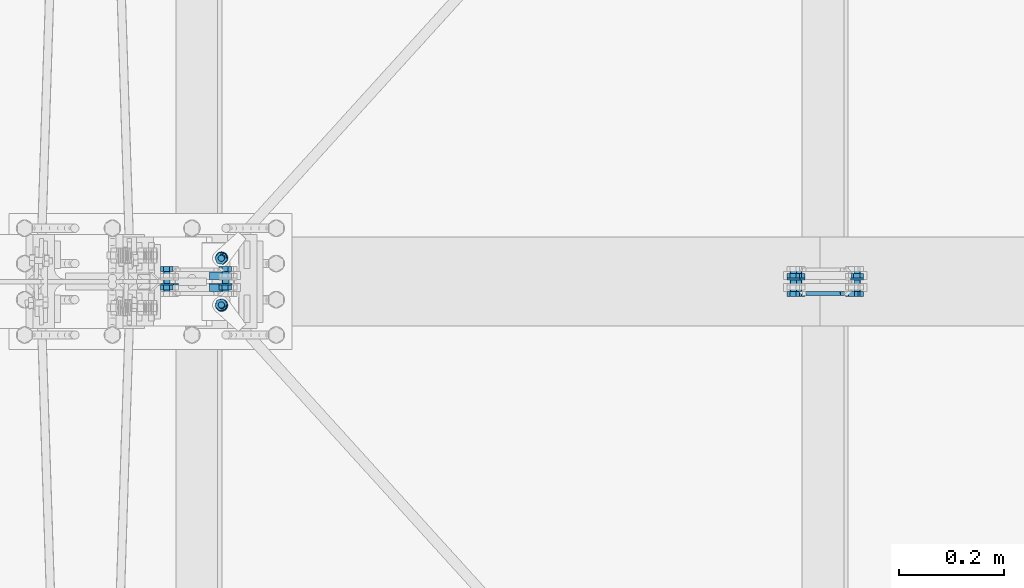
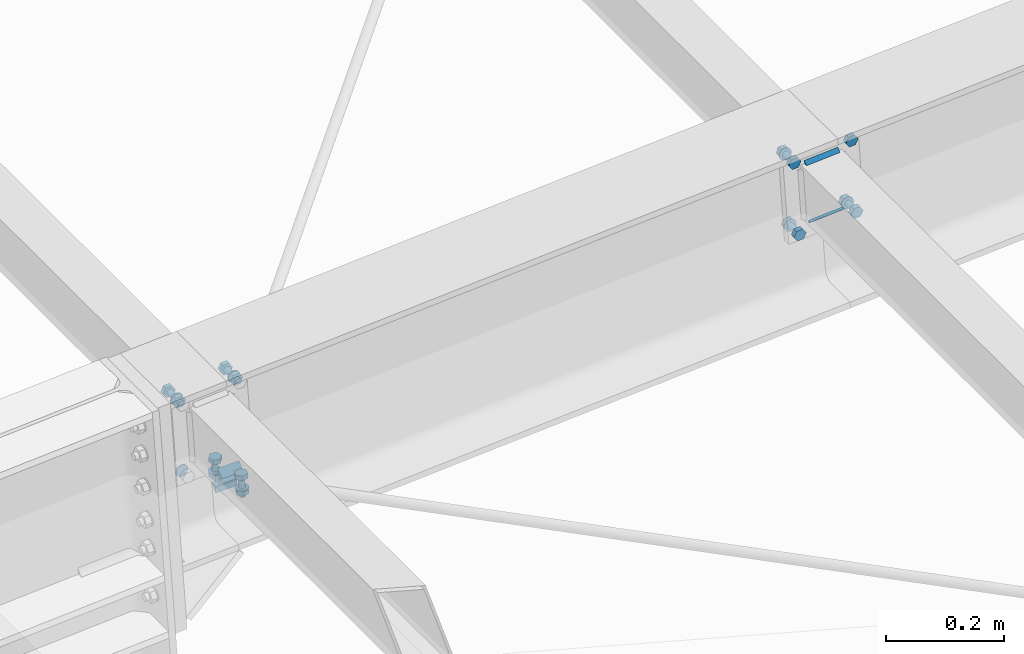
# One storey, part 48 of 72: 30 mechanical fasteners, 8 fasteners.
"""IFC4 building model written with IfcOpenShell, lengths in metres."""

from ifc_helpers import new_model, si_unit, frame, origin_with_axes, place, context, project, spatial, polyline, outline, extrude, type_object, element, save


model = new_model("IFC4")

# Units and contexts
model_context = context("Model", 3, precision=1e-05, world=origin_with_axes())
ifc_project = project(units=[si_unit("LENGTHUNIT", "METRE"), si_unit("AREAUNIT", "SQUARE_METRE"), si_unit("VOLUMEUNIT", "CUBIC_METRE"), si_unit("MASSUNIT", "GRAM", prefix="KILO"), si_unit("TIMEUNIT", "SECOND"), si_unit("PLANEANGLEUNIT", "RADIAN"), si_unit("SOLIDANGLEUNIT", "STERADIAN"), si_unit("THERMODYNAMICTEMPERATUREUNIT", "DEGREE_CELSIUS")], contexts=[model_context])

# Site, building, storey
placement_1 = place(None, origin_with_axes())
site = spatial("IfcSite", under=ifc_project, at=placement_1, Name="Italia", CompositionType="ELEMENT")
building = spatial("IfcBuilding", under=site, at=placement_1, Name="Pensilina", CompositionType="ELEMENT")
storey = spatial("IfcBuildingStorey", under=building, at=placement_1, Name="Storey 0", CompositionType="ELEMENT", Elevation=0.0)

# Mechanical fasteners
mechanical_fastener_type_1 = type_object("IfcMechanicalFastenerType", Name="Collegamento 0203_0204", PredefinedType="BOLT")
placement_2 = place(placement_1, origin_with_axes())
mechanical_fastener_1_placement = place(placement_2, origin_with_axes())
element("IfcMechanicalFastener", 1, at=mechanical_fastener_1_placement, inside=storey, type_object=mechanical_fastener_type_1, Name="Collegamento 0203_0204", NominalDiameter=0.024, context=model_context, shape_type="SweptSolid", body=[
    extrude(outline(polyline([(0.0, 0.0, 0.0), (-0.000408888, -0.00310588, 0.0), (-0.00160772, -0.00600004, 0.0), (-0.00351477, -0.00848532, 0.0), (-0.00600004, -0.0103922, 0.0), (-0.00889421, -0.0115912, 0.0), (-0.012, -0.0120001, 0.0), (-0.0151058, -0.0115912, 0.0), (-0.018, -0.0103922, 0.0), (-0.0204853, -0.00848532, 0.0), (-0.0223923, -0.00600004, 0.0), (-0.0235912, -0.00310588, 0.0), (-0.024, 0.0, 0.0), (-0.0235912, 0.00310588, 0.0), (-0.0223923, 0.00600004, 0.0), (-0.0204853, 0.00848532, 0.0), (-0.018, 0.0103922, 0.0), (-0.0151058, 0.0115912, 0.0), (-0.012, 0.0120001, 0.0), (-0.00889421, 0.0115912, 0.0), (-0.00600004, 0.0103922, 0.0), (-0.00351477, 0.00848532, 0.0), (-0.00160772, 0.00600004, 0.0), (-0.000408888, 0.00310588, 0.0), (0.0, 0.0, 0.0)])), frame((0.958293, 10.554, 3.61698), z_axis=(0.0, 1.0, 0.0), x_axis=(-1.0, 0.0, 0.0)), (0.0, 0.0, 1.0), 0.00199986),
])
mechanical_fastener_type_2 = type_object("IfcMechanicalFastenerType", Name="Collegamento 0203_0204", PredefinedType="BOLT")
mechanical_fastener_2_placement = place(placement_2, origin_with_axes())
element("IfcMechanicalFastener", 2, at=mechanical_fastener_2_placement, inside=storey, type_object=mechanical_fastener_type_2, Name="Collegamento 0203_0204", NominalDiameter=0.0119999, context=model_context, shape_type="SweptSolid", body=[
    extrude(outline(polyline([(0.0, 0.0, 0.0), (-0.0119728, 0.000807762, 0.0), (-0.0172595, 0.0115805, 0.0), (-0.0105735, 0.0215452, 0.0), (0.00139928, 0.0207374, 0.0), (0.00668609, 0.0099647, 0.0), (0.0, 0.0, 0.0)])), frame((1.06652, 10.579, 3.7654), z_axis=(0.0, 1.0, 0.0), x_axis=(-1.0, 0.0, 0.0)), (0.0, 0.0, 1.0), 0.00959969),
])
mechanical_fastener_type_3 = type_object("IfcMechanicalFastenerType", Name="Collegamento 0203_0204", PredefinedType="BOLT")
mechanical_fastener_3_placement = place(placement_2, origin_with_axes())
element("IfcMechanicalFastener", 3, at=mechanical_fastener_3_placement, inside=storey, type_object=mechanical_fastener_type_3, Name="Collegamento 0203_0204", NominalDiameter=0.012, context=model_context, shape_type="SweptSolid", body=[
    extrude(outline(polyline([(0.0, 0.0, 0.0), (-0.000204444, -0.00155282, 0.0), (-0.000803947, -0.00300002, 0.0), (-0.00175738, -0.00424266, 0.0), (-0.00300002, -0.00519609, 0.0), (-0.0044471, -0.00579548, 0.0), (-0.00600004, -0.00600004, 0.0), (-0.00755298, -0.00579548, 0.0), (-0.00900006, -0.00519609, 0.0), (-0.0102427, -0.00424266, 0.0), (-0.0111961, -0.00300002, 0.0), (-0.0117956, -0.00155282, 0.0), (-0.0120001, 0.0, 0.0), (-0.0117956, 0.00155282, 0.0), (-0.0111961, 0.00300002, 0.0), (-0.0102427, 0.00424266, 0.0), (-0.00900006, 0.00519609, 0.0), (-0.00755298, 0.00579548, 0.0), (-0.00600004, 0.00600004, 0.0), (-0.0044471, 0.00579548, 0.0), (-0.00300002, 0.00519609, 0.0), (-0.00175738, 0.00424266, 0.0), (-0.000803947, 0.00300002, 0.0), (-0.000204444, 0.00155282, 0.0), (0.0, 0.0, 0.0)])), frame((1.06581, 10.538, 3.77618), z_axis=(0.0, 1.0, 0.0), x_axis=(-1.0, 0.0, 0.0)), (0.0, 0.0, 1.0), 0.0410004),
])
mechanical_fastener_type_4 = type_object("IfcMechanicalFastenerType", Name="Collegamento 0203_0204", PredefinedType="BOLT")
mechanical_fastener_4_placement = place(placement_2, origin_with_axes())
element("IfcMechanicalFastener", 4, at=mechanical_fastener_4_placement, inside=storey, type_object=mechanical_fastener_type_4, Name="Collegamento 0203_0204", NominalDiameter=0.0119999, context=model_context, shape_type="SweptSolid", body=[
    extrude(outline(polyline([(0.0, 0.0, 0.0), (-0.0119728, 0.000807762, 0.0), (-0.0172595, 0.0115805, 0.0), (-0.0105735, 0.0215452, 0.0), (0.00139928, 0.0207374, 0.0), (0.00668609, 0.0099647, 0.0), (0.0, 0.0, 0.0)])), frame((1.06652, 10.5444, 3.7654), z_axis=(0.0, 1.0, 0.0), x_axis=(-1.0, 0.0, 0.0)), (0.0, 0.0, 1.0), 0.00959969),
])
mechanical_fastener_type_5 = type_object("IfcMechanicalFastenerType", Name="Collegamento 0203_0204", PredefinedType="BOLT")
mechanical_fastener_5_placement = place(placement_2, origin_with_axes())
element("IfcMechanicalFastener", 5, at=mechanical_fastener_5_placement, inside=storey, type_object=mechanical_fastener_type_5, Name="Collegamento 0203_0204", NominalDiameter=0.024, context=model_context, shape_type="SweptSolid", body=[
    extrude(outline(polyline([(0.0, 0.0, 0.0), (-0.000408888, -0.00310588, 0.0), (-0.00160766, -0.00600004, 0.0), (-0.00351465, -0.00848532, 0.0), (-0.00599992, -0.0103922, 0.0), (-0.00889409, -0.0115912, 0.0), (-0.012, -0.0120001, 0.0), (-0.0151058, -0.0115912, 0.0), (-0.018, -0.0103922, 0.0), (-0.0204853, -0.00848532, 0.0), (-0.0223923, -0.00600004, 0.0), (-0.023591, -0.00310588, 0.0), (-0.0239999, 0.0, 0.0), (-0.023591, 0.00310588, 0.0), (-0.0223923, 0.00600004, 0.0), (-0.0204853, 0.00848532, 0.0), (-0.018, 0.0103922, 0.0), (-0.0151058, 0.0115912, 0.0), (-0.012, 0.0120001, 0.0), (-0.00889409, 0.0115912, 0.0), (-0.00599992, 0.0103922, 0.0), (-0.00351465, 0.00848532, 0.0), (-0.00160766, 0.00600004, 0.0), (-0.000408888, 0.00310588, 0.0), (0.0, 0.0, 0.0)])), frame((1.05981, 10.554, 3.77618), z_axis=(0.0, 1.0, 0.0), x_axis=(-1.0, 0.0, 0.0)), (0.0, 0.0, 1.0), 0.00199986),
])
mechanical_fastener_type_6 = type_object("IfcMechanicalFastenerType", Name="Collegamento 0203_0204", PredefinedType="BOLT")
mechanical_fastener_6_placement = place(placement_2, origin_with_axes())
element("IfcMechanicalFastener", 6, at=mechanical_fastener_6_placement, inside=storey, type_object=mechanical_fastener_type_6, Name="Collegamento 0203_0204", NominalDiameter=0.0119999, context=model_context, shape_type="SweptSolid", body=[
    extrude(outline(polyline([(0.0, 0.0, 0.0), (-0.0119728, 0.000807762, 0.0), (-0.0172596, 0.0115805, 0.0), (-0.0105736, 0.0215452, 0.0), (0.00139916, 0.0207374, 0.0), (0.00668597, 0.0099647, 0.0), (0.0, 0.0, 0.0)])), frame((0.954773, 10.579, 3.75786), z_axis=(0.0, 1.0, 0.0), x_axis=(-1.0, 0.0, 0.0)), (0.0, 0.0, 1.0), 0.00959969),
])
mechanical_fastener_type_7 = type_object("IfcMechanicalFastenerType", Name="Collegamento 0203_0204", PredefinedType="BOLT")
mechanical_fastener_7_placement = place(placement_2, origin_with_axes())
element("IfcMechanicalFastener", 7, at=mechanical_fastener_7_placement, inside=storey, type_object=mechanical_fastener_type_7, Name="Collegamento 0203_0204", NominalDiameter=0.012, context=model_context, shape_type="SweptSolid", body=[
    extrude(outline(polyline([(0.0, 0.0, 0.0), (-0.000204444, -0.00155282, 0.0), (-0.000803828, -0.00300002, 0.0), (-0.00175732, -0.00424266, 0.0), (-0.00299996, -0.00519609, 0.0), (-0.00444704, -0.00579548, 0.0), (-0.00599998, -0.00600004, 0.0), (-0.00755292, -0.00579548, 0.0), (-0.009, -0.00519609, 0.0), (-0.0102426, -0.00424266, 0.0), (-0.0111961, -0.00300002, 0.0), (-0.0117955, -0.00155282, 0.0), (-0.012, 0.0, 0.0), (-0.0117955, 0.00155282, 0.0), (-0.0111961, 0.00300002, 0.0), (-0.0102426, 0.00424266, 0.0), (-0.009, 0.00519609, 0.0), (-0.00755292, 0.00579548, 0.0), (-0.00599998, 0.00600004, 0.0), (-0.00444704, 0.00579548, 0.0), (-0.00299996, 0.00519609, 0.0), (-0.00175732, 0.00424266, 0.0), (-0.000803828, 0.00300002, 0.0), (-0.000204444, 0.00155282, 0.0), (0.0, 0.0, 0.0)])), frame((0.95406, 10.538, 3.76864), z_axis=(0.0, 1.0, 0.0), x_axis=(-1.0, 0.0, 0.0)), (0.0, 0.0, 1.0), 0.0410004),
])
mechanical_fastener_type_8 = type_object("IfcMechanicalFastenerType", Name="Collegamento 0203_0204", PredefinedType="BOLT")
mechanical_fastener_8_placement = place(placement_2, origin_with_axes())
element("IfcMechanicalFastener", 8, at=mechanical_fastener_8_placement, inside=storey, type_object=mechanical_fastener_type_8, Name="Collegamento 0203_0204", NominalDiameter=0.0119999, context=model_context, shape_type="SweptSolid", body=[
    extrude(outline(polyline([(0.0, 0.0, 0.0), (-0.0119728, 0.000807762, 0.0), (-0.0172596, 0.0115805, 0.0), (-0.0105736, 0.0215452, 0.0), (0.00139916, 0.0207374, 0.0), (0.00668597, 0.0099647, 0.0), (0.0, 0.0, 0.0)])), frame((0.954773, 10.5444, 3.75786), z_axis=(0.0, 1.0, 0.0), x_axis=(-1.0, 0.0, 0.0)), (0.0, 0.0, 1.0), 0.00959969),
])
mechanical_fastener_type_9 = type_object("IfcMechanicalFastenerType", Name="Collegamento 0203_0204", PredefinedType="BOLT")
mechanical_fastener_9_placement = place(placement_2, origin_with_axes())
element("IfcMechanicalFastener", 9, at=mechanical_fastener_9_placement, inside=storey, type_object=mechanical_fastener_type_9, Name="Collegamento 0203_0204", NominalDiameter=0.024, context=model_context, shape_type="SweptSolid", body=[
    extrude(outline(polyline([(0.0, 0.0, 0.0), (-0.000408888, -0.00310588, 0.0), (-0.00160772, -0.00600004, 0.0), (-0.00351477, -0.00848532, 0.0), (-0.00600004, -0.0103922, 0.0), (-0.00889421, -0.0115912, 0.0), (-0.012, -0.0120001, 0.0), (-0.0151058, -0.0115912, 0.0), (-0.018, -0.0103922, 0.0), (-0.0204853, -0.00848532, 0.0), (-0.0223923, -0.00600004, 0.0), (-0.0235912, -0.00310588, 0.0), (-0.024, 0.0, 0.0), (-0.0235912, 0.00310588, 0.0), (-0.0223923, 0.00600004, 0.0), (-0.0204853, 0.00848532, 0.0), (-0.018, 0.0103922, 0.0), (-0.0151058, 0.0115912, 0.0), (-0.012, 0.0120001, 0.0), (-0.00889421, 0.0115912, 0.0), (-0.00600004, 0.0103922, 0.0), (-0.00351477, 0.00848532, 0.0), (-0.00160772, 0.00600004, 0.0), (-0.000408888, 0.00310588, 0.0), (0.0, 0.0, 0.0)])), frame((0.94806, 10.554, 3.76864), z_axis=(0.0, 1.0, 0.0), x_axis=(-1.0, 0.0, 0.0)), (0.0, 0.0, 1.0), 0.00199986),
])
mechanical_fastener_type_10 = type_object("IfcMechanicalFastenerType", Name="Collegamento 0203_0602", PredefinedType="BOLT")
mechanical_fastener_10_placement = place(placement_2, origin_with_axes())
element("IfcMechanicalFastener", 10, at=mechanical_fastener_10_placement, inside=storey, type_object=mechanical_fastener_type_10, Name="Collegamento 0203_0602", NominalDiameter=0.0119996, context=model_context, shape_type="SweptSolid", body=[
    extrude(outline(polyline([(0.0, 0.0, 0.0), (2.86102e-06, -0.0119996, 0.0), (0.010396, -0.0179977, 0.0), (0.0207872, -0.0119958, 0.0), (0.0207849, 4.29153e-06, 0.0), (0.0103912, 0.00600195, 0.0), (0.0, 0.0, 0.0)])), frame((1.07585, 10.518, 3.59465), z_axis=(-0.030982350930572, 0.034173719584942, 0.998935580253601), x_axis=(-0.740853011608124, -0.671667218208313, 0.0)), (0.0, 0.0, 1.0), 0.00959989),
])
mechanical_fastener_type_11 = type_object("IfcMechanicalFastenerType", Name="Collegamento 0203_0602", PredefinedType="BOLT")
mechanical_fastener_11_placement = place(placement_2, origin_with_axes())
element("IfcMechanicalFastener", 11, at=mechanical_fastener_11_placement, inside=storey, type_object=mechanical_fastener_type_11, Name="Collegamento 0203_0602", NominalDiameter=0.012, context=model_context, shape_type="SweptSolid", body=[
    extrude(outline(polyline([(0.0, 0.0, 0.0), (-0.000204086, -0.00155258, 0.0), (-0.000803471, -0.00299931, 0.0), (-0.00175714, -0.00424194, 0.0), (-0.00299978, -0.00519562, 0.0), (-0.00444651, -0.005795, 0.0), (-0.00599957, -0.00599909, 0.0), (-0.00755262, -0.005795, 0.0), (-0.00899982, -0.00519609, 0.0), (-0.010242, -0.00424194, 0.0), (-0.0111957, -0.00299931, 0.0), (-0.011795, -0.00155258, 0.0), (-0.0119996, 9.53674e-07, 0.0), (-0.011795, 0.00155354, 0.0), (-0.0111961, 0.00300026, 0.0), (-0.0102425, 0.0042429, 0.0), (-0.00899982, 0.00519657, 0.0), (-0.00755262, 0.00579596, 0.0), (-0.00600004, 0.00600052, 0.0), (-0.00444651, 0.00579596, 0.0), (-0.00299931, 0.00519705, 0.0), (-0.00175714, 0.0042429, 0.0), (-0.000803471, 0.00300026, 0.0), (-0.000204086, 0.00155354, 0.0), (0.0, 0.0, 0.0)])), frame((1.06085, 10.5101, 3.55641), z_axis=(-0.030972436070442, 0.034181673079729, 0.998935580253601), x_axis=(-0.741037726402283, -0.671463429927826, 0.0)), (0.0, 0.0, 1.0), 0.038),
])
mechanical_fastener_type_12 = type_object("IfcMechanicalFastenerType", Name="Collegamento 0203_0602", PredefinedType="BOLT")
mechanical_fastener_12_placement = place(placement_2, origin_with_axes())
element("IfcMechanicalFastener", 12, at=mechanical_fastener_12_placement, inside=storey, type_object=mechanical_fastener_type_12, Name="Collegamento 0203_0602", NominalDiameter=0.0119996, context=model_context, shape_type="SweptSolid", body=[
    extrude(outline(polyline([(0.0, 0.0, 0.0), (2.38419e-06, -0.0120001, 0.0), (0.010396, -0.0179977, 0.0), (0.0207872, -0.0119958, 0.0), (0.0207844, 3.8147e-06, 0.0), (0.0103912, 0.00600195, 0.0), (0.0, 0.0, 0.0)])), frame((1.07683, 10.5169, 3.56308), z_axis=(-0.030982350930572, 0.034173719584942, 0.998935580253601), x_axis=(-0.740853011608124, -0.671667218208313, 0.0)), (0.0, 0.0, 1.0), 0.00959989),
])
mechanical_fastener_type_13 = type_object("IfcMechanicalFastenerType", Name="Collegamento 0203_0602", PredefinedType="BOLT")
mechanical_fastener_13_placement = place(placement_2, origin_with_axes())
element("IfcMechanicalFastener", 13, at=mechanical_fastener_13_placement, inside=storey, type_object=mechanical_fastener_type_13, Name="Collegamento 0203_0602", NominalDiameter=0.024, context=model_context, shape_type="SweptSolid", body=[
    extrude(outline(polyline([(0.0, 0.0, 0.0), (-0.000408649, -0.00310612, 0.0), (-0.00160789, -0.00600004, 0.0), (-0.00351524, -0.00848579, 0.0), (-0.00600052, -0.0103927, 0.0), (-0.00889444, -0.0115914, 0.0), (-0.0120001, -0.0120006, 0.0), (-0.0151057, -0.0115914, 0.0), (-0.0180001, -0.0103927, 0.0), (-0.0204859, -0.00848579, 0.0), (-0.0223927, -0.00600052, 0.0), (-0.0235915, -0.00310659, 0.0), (-0.0240006, -4.76837e-07, 0.0), (-0.0235915, 0.00310516, 0.0), (-0.0223927, 0.00599957, 0.0), (-0.0204854, 0.00848532, 0.0), (-0.0180001, 0.0103922, 0.0), (-0.0151062, 0.0115905, 0.0), (-0.0120006, 0.0119996, 0.0), (-0.00889444, 0.0115905, 0.0), (-0.00600052, 0.0103917, 0.0), (-0.00351477, 0.00848484, 0.0), (-0.00160789, 0.00599957, 0.0), (-0.000409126, 0.00310564, 0.0), (0.0, 0.0, 0.0)])), frame((1.05595, 10.5066, 3.5724), z_axis=(-0.030993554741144, 0.033854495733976, 0.998946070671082), x_axis=(-0.737585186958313, -0.675254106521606, 0.0)), (0.0, 0.0, 1.0), 0.00200006),
])

# Fasteners
fastener_type_1 = type_object("IfcFastenerType", Name="Collegamento 0203_0602", PredefinedType="WELD")
fastener_1_placement = place(placement_2, origin_with_axes())
element("IfcFastener", 14, at=fastener_1_placement, inside=storey, type_object=fastener_type_1, Name="Collegamento 0203_0602", context=model_context, shape_type="SweptSolid", body=[
    extrude(outline(polyline([(0.0, 0.0, 0.0), (-0.0136957, 0.0142243, 0.0), (0.000469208, 0.0137403, 0.0), (0.0, 0.0, 0.0)])), frame((1.0422, 10.5551, 3.55861), z_axis=(0.999519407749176, 0.0, 0.030999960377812), x_axis=(0.0, 1.0, 0.0)), (0.0, 0.0, 1.0), 0.0421002),
])
fastener_type_2 = type_object("IfcFastenerType", Name="Collegamento 0203_0602", PredefinedType="WELD")
fastener_2_placement = place(placement_2, origin_with_axes())
element("IfcFastener", 15, at=fastener_2_placement, inside=storey, type_object=fastener_type_2, Name="Collegamento 0203_0602", context=model_context, shape_type="SweptSolid", body=[
    extrude(outline(polyline([(0.0, 0.0, 0.0), (0.0146351, -0.0132561, 0.0), (0.000469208, -0.0137401, 0.0), (0.0, 0.0, 0.0)])), frame((1.08312, 10.5563, 3.59727), z_axis=(-0.999519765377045, 0.0, -0.030988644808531), x_axis=(0.0, -1.0, 0.0)), (0.0, 0.0, 1.0), 0.0421001),
])

# Mechanical fasteners
mechanical_fastener_type_14 = type_object("IfcMechanicalFastenerType", Name="Collegamento 0203_0604", PredefinedType="BOLT")
mechanical_fastener_14_placement = place(placement_2, origin_with_axes())
element("IfcMechanicalFastener", 16, at=mechanical_fastener_14_placement, inside=storey, type_object=mechanical_fastener_type_14, Name="Collegamento 0203_0604", NominalDiameter=0.0119996, context=model_context, shape_type="SweptSolid", body=[
    extrude(outline(polyline([(0.0, 0.0, 0.0), (-5.24521e-06, -0.0119991, 0.0), (0.0103846, -0.0180035, 0.0), (0.0207796, -0.0120077, 0.0), (0.0207839, -7.62939e-06, 0.0), (0.0103941, 0.0059967, 0.0), (0.0, 0.0, 0.0)])), frame((1.06045, 10.6159, 3.57463), z_axis=(-0.030969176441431, -0.034172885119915, 0.998935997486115), x_axis=(0.740986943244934, -0.67151939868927, 0.0)), (0.0, 0.0, 1.0), 0.00960013),
])
mechanical_fastener_type_15 = type_object("IfcMechanicalFastenerType", Name="Collegamento 0203_0604", PredefinedType="BOLT")
mechanical_fastener_15_placement = place(placement_2, origin_with_axes())
element("IfcMechanicalFastener", 17, at=mechanical_fastener_15_placement, inside=storey, type_object=mechanical_fastener_type_15, Name="Collegamento 0203_0604", NominalDiameter=0.012, context=model_context, shape_type="SweptSolid", body=[
    extrude(outline(polyline([(0.0, 0.0, 0.0), (-0.000204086, -0.00155258, 0.0), (-0.000803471, -0.00300026, 0.0), (-0.00175714, -0.0042429, 0.0), (-0.00299978, -0.00519657, 0.0), (-0.00444698, -0.00579548, 0.0), (-0.00600004, -0.00599957, 0.0), (-0.0075531, -0.00579548, 0.0), (-0.0090003, -0.00519562, 0.0), (-0.0102425, -0.00424194, 0.0), (-0.0111961, -0.00299931, 0.0), (-0.011796, -0.00155258, 0.0), (-0.0120001, 0.0, 0.0), (-0.011796, 0.00155354, 0.0), (-0.0111961, 0.00300026, 0.0), (-0.0102429, 0.0042429, 0.0), (-0.0090003, 0.00519657, 0.0), (-0.0075531, 0.00579643, 0.0), (-0.00600004, 0.00600052, 0.0), (-0.00444698, 0.00579548, 0.0), (-0.00299978, 0.00519657, 0.0), (-0.00175714, 0.0042429, 0.0), (-0.000803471, 0.00300026, 0.0), (-0.000204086, 0.00155258, 0.0), (0.0, 0.0, 0.0)])), frame((1.06974, 10.6018, 3.53639), z_axis=(-0.030975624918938, -0.034131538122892, 0.99893718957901), x_axis=(0.740512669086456, -0.672042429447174, 0.0)), (0.0, 0.0, 1.0), 0.038),
])
mechanical_fastener_type_16 = type_object("IfcMechanicalFastenerType", Name="Collegamento 0203_0604", PredefinedType="BOLT")
mechanical_fastener_16_placement = place(placement_2, origin_with_axes())
element("IfcMechanicalFastener", 18, at=mechanical_fastener_16_placement, inside=storey, type_object=mechanical_fastener_type_16, Name="Collegamento 0203_0604", NominalDiameter=0.0119996, context=model_context, shape_type="SweptSolid", body=[
    extrude(outline(polyline([(0.0, 0.0, 0.0), (-2.38419e-06, -0.0120001, 0.0), (0.0103889, -0.0180016, 0.0), (0.020782, -0.0120039, 0.0), (0.0207849, -3.8147e-06, 0.0), (0.0103936, 0.00599766, 0.0), (0.0, 0.0, 0.0)])), frame((1.06143, 10.617, 3.54306), z_axis=(-0.030981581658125, -0.034172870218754, 0.998935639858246), x_axis=(0.740852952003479, -0.671667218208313, 0.0)), (0.0, 0.0, 1.0), 0.00960013),
])
mechanical_fastener_type_17 = type_object("IfcMechanicalFastenerType", Name="Collegamento 0203_0604", PredefinedType="BOLT")
mechanical_fastener_17_placement = place(placement_2, origin_with_axes())
element("IfcMechanicalFastener", 19, at=mechanical_fastener_17_placement, inside=storey, type_object=mechanical_fastener_type_17, Name="Collegamento 0203_0604", NominalDiameter=0.024, context=model_context, shape_type="SweptSolid", body=[
    extrude(outline(polyline([(0.0, 0.0, 0.0), (-0.000409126, -0.00310612, 0.0), (-0.00160837, -0.00599957, 0.0), (-0.00351477, -0.00848484, 0.0), (-0.00600052, -0.0103922, 0.0), (-0.00889444, -0.011591, 0.0), (-0.0120001, -0.0120001, 0.0), (-0.0151062, -0.011591, 0.0), (-0.0180006, -0.0103922, 0.0), (-0.0204854, -0.00848484, 0.0), (-0.0223923, -0.00600052, 0.0), (-0.0235915, -0.00310612, 0.0), (-0.0240002, 0.0, 0.0), (-0.0235915, 0.00310612, 0.0), (-0.0223923, 0.00599957, 0.0), (-0.0204859, 0.00848579, 0.0), (-0.0180001, 0.0103922, 0.0), (-0.0151062, 0.011591, 0.0), (-0.0120006, 0.0120001, 0.0), (-0.00889444, 0.0115919, 0.0), (-0.00600004, 0.0103922, 0.0), (-0.00351477, 0.00848579, 0.0), (-0.00160837, 0.00600052, 0.0), (-0.000409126, 0.00310612, 0.0), (0.0, 0.0, 0.0)])), frame((1.07372, 10.5972, 3.55238), z_axis=(-0.030937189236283, -0.034334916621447, 0.998931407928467), x_axis=(0.742909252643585, -0.669392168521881, 0.0)), (0.0, 0.0, 1.0), 0.00199985),
])

# Fasteners
fastener_type_3 = type_object("IfcFastenerType", Name="Collegamento 0203_0604", PredefinedType="WELD")
fastener_3_placement = place(placement_2, origin_with_axes())
element("IfcFastener", 20, at=fastener_3_placement, inside=storey, type_object=fastener_type_3, Name="Collegamento 0203_0604", context=model_context, shape_type="SweptSolid", body=[
    extrude(outline(polyline([(0.0, 0.0, 0.0), (-0.0136957, 0.0142241, 0.0), (0.000469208, 0.0137401, 0.0), (0.0, 0.0, 0.0)])), frame((1.08428, 10.5649, 3.53989), z_axis=(-0.99951958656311, 0.0, -0.03099412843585), x_axis=(0.0, -1.0, 0.0)), (0.0, 0.0, 1.0), 0.0421004),
])
fastener_type_4 = type_object("IfcFastenerType", Name="Collegamento 0203_0604", PredefinedType="WELD")
fastener_4_placement = place(placement_2, origin_with_axes())
element("IfcFastener", 21, at=fastener_4_placement, inside=storey, type_object=fastener_type_4, Name="Collegamento 0203_0604", context=model_context, shape_type="SweptSolid", body=[
    extrude(outline(polyline([(0.0, 0.0, 0.0), (0.0146351, -0.0132561, 0.0), (0.000469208, -0.0137401, 0.0), (0.0, 0.0, 0.0)])), frame((1.04104, 10.5637, 3.57594), z_axis=(0.9995197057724, 0.0, 0.030988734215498), x_axis=(0.0, 1.0, 0.0)), (0.0, 0.0, 1.0), 0.0421),
])
fastener_type_5 = type_object("IfcFastenerType", Name="Collegamento 0303_0302", PredefinedType="WELD")
fastener_5_placement = place(placement_2, origin_with_axes())
element("IfcFastener", 22, at=fastener_5_placement, inside=storey, type_object=fastener_type_5, Name="Collegamento 0303_0302", context=model_context, shape_type="SweptSolid", body=[
    extrude(outline(polyline([(0.0, 0.0, 0.0), (0.00717354, -0.00695801, 0.0), (0.0, -0.00695801, 0.0), (0.0, 0.0, 0.0)])), frame((2.24674, 10.5411, 3.84781), z_axis=(-0.997731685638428, 0.0, -0.067316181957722), x_axis=(0.0, -1.0, 0.0)), (0.0, 0.0, 1.0), 0.0661001),
])
fastener_type_6 = type_object("IfcFastenerType", Name="Collegamento 0303_0302", PredefinedType="WELD")
fastener_6_placement = place(placement_2, origin_with_axes())
element("IfcFastener", 23, at=fastener_6_placement, inside=storey, type_object=fastener_type_6, Name="Collegamento 0303_0302", context=model_context, shape_type="SweptSolid", body=[
    extrude(outline(polyline([(0.0, 0.0, 0.0), (-0.00717354, 0.00695801, 0.0), (0.0, 0.00695801, 0.0), (0.0, 0.0, 0.0)])), frame((2.1898, 10.5411, 3.70985), z_axis=(0.997731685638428, 0.0, 0.067316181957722), x_axis=(0.0, 1.0, 0.0)), (0.0, 0.0, 1.0), 0.0661001),
])
fastener_type_7 = type_object("IfcFastenerType", Name="Collegamento 0303_0302", PredefinedType="WELD")
fastener_7_placement = place(placement_2, origin_with_axes())
element("IfcFastener", 24, at=fastener_7_placement, inside=storey, type_object=fastener_type_7, Name="Collegamento 0303_0302", context=model_context, shape_type="SweptSolid", body=[
    extrude(outline(polyline([(0.0, 0.0, 0.0), (0.00717354, -0.00695801, 0.0), (0.0, -0.00695801, 0.0), (0.0, 0.0, 0.0)])), frame((2.24674, 10.5411, 3.84781), z_axis=(-0.997731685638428, 0.0, -0.067316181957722), x_axis=(0.0, -1.0, 0.0)), (0.0, 0.0, 1.0), 0.0661001),
])
fastener_type_8 = type_object("IfcFastenerType", Name="Collegamento 0303_0302", PredefinedType="WELD")
fastener_8_placement = place(placement_2, origin_with_axes())
element("IfcFastener", 25, at=fastener_8_placement, inside=storey, type_object=fastener_type_8, Name="Collegamento 0303_0302", context=model_context, shape_type="SweptSolid", body=[
    extrude(outline(polyline([(0.0, 0.0, 0.0), (-0.00717354, 0.00695801, 0.0), (0.0, 0.00695801, 0.0), (0.0, 0.0, 0.0)])), frame((2.1898, 10.5411, 3.70985), z_axis=(0.997731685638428, 0.0, 0.067316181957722), x_axis=(0.0, 1.0, 0.0)), (0.0, 0.0, 1.0), 0.0661001),
])

# Mechanical fasteners
mechanical_fastener_type_18 = type_object("IfcMechanicalFastenerType", Name="Collegamento 0303_0302", PredefinedType="BOLT")
mechanical_fastener_18_placement = place(placement_2, origin_with_axes())
element("IfcMechanicalFastener", 26, at=mechanical_fastener_18_placement, inside=storey, type_object=mechanical_fastener_type_18, Name="Collegamento 0303_0302", NominalDiameter=0.0119999, context=model_context, shape_type="SweptSolid", body=[
    extrude(outline(polyline([(0.0, 0.0, 0.0), (-0.0119727, -0.000808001, 0.0), (-0.0186586, 0.00915694, 0.0), (-0.0133719, 0.0199296, 0.0), (-0.00139904, 0.0207374, 0.0), (0.00528693, 0.0107725, 0.0), (0.0, 0.0, 0.0)])), frame((2.1742, 10.541, 3.68927), z_axis=(0.0, -1.0, 0.0), x_axis=(1.0, 0.0, 0.0)), (0.0, 0.0, 1.0), 0.00959969),
])
mechanical_fastener_type_19 = type_object("IfcMechanicalFastenerType", Name="Collegamento 0303_0302", PredefinedType="BOLT")
mechanical_fastener_19_placement = place(placement_2, origin_with_axes())
element("IfcMechanicalFastener", 27, at=mechanical_fastener_19_placement, inside=storey, type_object=mechanical_fastener_type_19, Name="Collegamento 0303_0302", NominalDiameter=0.012, context=model_context, shape_type="SweptSolid", body=[
    extrude(outline(polyline([(0.0, 0.0, 0.0), (-0.000204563, -0.00155282, 0.0), (-0.000803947, -0.00300002, 0.0), (-0.00175738, -0.00424266, 0.0), (-0.00300002, -0.00519609, 0.0), (-0.00444722, -0.00579548, 0.0), (-0.00600004, -0.00600004, 0.0), (-0.00755286, -0.00579548, 0.0), (-0.00900006, -0.00519609, 0.0), (-0.0102427, -0.00424266, 0.0), (-0.0111961, -0.00300002, 0.0), (-0.0117955, -0.00155282, 0.0), (-0.0120001, 0.0, 0.0), (-0.0117955, 0.00155282, 0.0), (-0.0111961, 0.00300002, 0.0), (-0.0102427, 0.00424266, 0.0), (-0.00900006, 0.00519609, 0.0), (-0.00755286, 0.00579548, 0.0), (-0.00600004, 0.00600004, 0.0), (-0.00444722, 0.00579548, 0.0), (-0.00300002, 0.00519609, 0.0), (-0.00175738, 0.00424266, 0.0), (-0.000803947, 0.00300002, 0.0), (-0.000204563, 0.00155282, 0.0), (0.0, 0.0, 0.0)])), frame((2.17351, 10.582, 3.69923), z_axis=(0.0, -1.0, 0.0), x_axis=(1.0, 0.0, 0.0)), (0.0, 0.0, 1.0), 0.0410004),
])
mechanical_fastener_type_20 = type_object("IfcMechanicalFastenerType", Name="Collegamento 0303_0302", PredefinedType="BOLT")
mechanical_fastener_20_placement = place(placement_2, origin_with_axes())
element("IfcMechanicalFastener", 28, at=mechanical_fastener_20_placement, inside=storey, type_object=mechanical_fastener_type_20, Name="Collegamento 0303_0302", NominalDiameter=0.0119999, context=model_context, shape_type="SweptSolid", body=[
    extrude(outline(polyline([(0.0, 0.0, 0.0), (-0.0119727, -0.000808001, 0.0), (-0.0186586, 0.00915694, 0.0), (-0.0133719, 0.0199296, 0.0), (-0.00139904, 0.0207374, 0.0), (0.00528693, 0.0107725, 0.0), (0.0, 0.0, 0.0)])), frame((2.1742, 10.5756, 3.68927), z_axis=(0.0, -1.0, 0.0), x_axis=(1.0, 0.0, 0.0)), (0.0, 0.0, 1.0), 0.00959969),
])
mechanical_fastener_type_21 = type_object("IfcMechanicalFastenerType", Name="Collegamento 0303_0302", PredefinedType="BOLT")
mechanical_fastener_21_placement = place(placement_2, origin_with_axes())
element("IfcMechanicalFastener", 29, at=mechanical_fastener_21_placement, inside=storey, type_object=mechanical_fastener_type_21, Name="Collegamento 0303_0302", NominalDiameter=0.024, context=model_context, shape_type="SweptSolid", body=[
    extrude(outline(polyline([(0.0, 0.0, 0.0), (-0.000408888, -0.00310588, 0.0), (-0.00160789, -0.00600004, 0.0), (-0.00351477, -0.00848532, 0.0), (-0.00600004, -0.0103922, 0.0), (-0.00889421, -0.0115912, 0.0), (-0.0120001, -0.0120001, 0.0), (-0.015106, -0.0115912, 0.0), (-0.0180001, -0.0103922, 0.0), (-0.0204854, -0.00848532, 0.0), (-0.0223923, -0.00600004, 0.0), (-0.0235913, -0.00310588, 0.0), (-0.0240002, 0.0, 0.0), (-0.0235913, 0.00310588, 0.0), (-0.0223923, 0.00600004, 0.0), (-0.0204854, 0.00848532, 0.0), (-0.0180001, 0.0103922, 0.0), (-0.015106, 0.0115912, 0.0), (-0.0120001, 0.0120001, 0.0), (-0.00889421, 0.0115912, 0.0), (-0.00600004, 0.0103922, 0.0), (-0.00351477, 0.00848532, 0.0), (-0.00160789, 0.00600004, 0.0), (-0.000408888, 0.00310588, 0.0), (0.0, 0.0, 0.0)])), frame((2.17951, 10.566, 3.69923), z_axis=(0.0, -1.0, 0.0), x_axis=(1.0, 0.0, 0.0)), (0.0, 0.0, 1.0), 0.00199986),
])
mechanical_fastener_type_22 = type_object("IfcMechanicalFastenerType", Name="Collegamento 0303_0302", PredefinedType="BOLT")
mechanical_fastener_22_placement = place(placement_2, origin_with_axes())
element("IfcMechanicalFastener", 30, at=mechanical_fastener_22_placement, inside=storey, type_object=mechanical_fastener_type_22, Name="Collegamento 0303_0302", NominalDiameter=0.0119999, context=model_context, shape_type="SweptSolid", body=[
    extrude(outline(polyline([(0.0, 0.0, 0.0), (-0.0119729, -0.000807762, 0.0), (-0.0186589, 0.00915718, 0.0), (-0.0133719, 0.0199296, 0.0), (-0.00139928, 0.0207376, 0.0), (0.00528669, 0.0107727, 0.0), (0.0, 0.0, 0.0)])), frame((2.28594, 10.541, 3.69681), z_axis=(0.0, -1.0, 0.0), x_axis=(1.0, 0.0, 0.0)), (0.0, 0.0, 1.0), 0.00959969),
])
mechanical_fastener_type_23 = type_object("IfcMechanicalFastenerType", Name="Collegamento 0303_0302", PredefinedType="BOLT")
mechanical_fastener_23_placement = place(placement_2, origin_with_axes())
element("IfcMechanicalFastener", 31, at=mechanical_fastener_23_placement, inside=storey, type_object=mechanical_fastener_type_23, Name="Collegamento 0303_0302", NominalDiameter=0.012, context=model_context, shape_type="SweptSolid", body=[
    extrude(outline(polyline([(0.0, 0.0, 0.0), (-0.000204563, -0.00155282, 0.0), (-0.000803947, -0.00300002, 0.0), (-0.00175738, -0.00424266, 0.0), (-0.00300002, -0.00519609, 0.0), (-0.00444722, -0.00579548, 0.0), (-0.00600004, -0.00600004, 0.0), (-0.00755286, -0.00579548, 0.0), (-0.00900006, -0.00519609, 0.0), (-0.0102427, -0.00424266, 0.0), (-0.0111961, -0.00300002, 0.0), (-0.0117955, -0.00155282, 0.0), (-0.0120001, 0.0, 0.0), (-0.0117955, 0.00155282, 0.0), (-0.0111961, 0.00300002, 0.0), (-0.0102427, 0.00424266, 0.0), (-0.00900006, 0.00519609, 0.0), (-0.00755286, 0.00579548, 0.0), (-0.00600004, 0.00600004, 0.0), (-0.00444722, 0.00579548, 0.0), (-0.00300002, 0.00519609, 0.0), (-0.00175738, 0.00424266, 0.0), (-0.000803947, 0.00300002, 0.0), (-0.000204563, 0.00155282, 0.0), (0.0, 0.0, 0.0)])), frame((2.28526, 10.582, 3.70677), z_axis=(0.0, -1.0, 0.0), x_axis=(1.0, 0.0, 0.0)), (0.0, 0.0, 1.0), 0.0410004),
])
mechanical_fastener_type_24 = type_object("IfcMechanicalFastenerType", Name="Collegamento 0303_0302", PredefinedType="BOLT")
mechanical_fastener_24_placement = place(placement_2, origin_with_axes())
element("IfcMechanicalFastener", 32, at=mechanical_fastener_24_placement, inside=storey, type_object=mechanical_fastener_type_24, Name="Collegamento 0303_0302", NominalDiameter=0.0119999, context=model_context, shape_type="SweptSolid", body=[
    extrude(outline(polyline([(0.0, 0.0, 0.0), (-0.0119729, -0.000807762, 0.0), (-0.0186589, 0.00915718, 0.0), (-0.0133719, 0.0199296, 0.0), (-0.00139928, 0.0207376, 0.0), (0.00528669, 0.0107727, 0.0), (0.0, 0.0, 0.0)])), frame((2.28594, 10.5756, 3.69681), z_axis=(0.0, -1.0, 0.0), x_axis=(1.0, 0.0, 0.0)), (0.0, 0.0, 1.0), 0.00959969),
])
mechanical_fastener_type_25 = type_object("IfcMechanicalFastenerType", Name="Collegamento 0303_0302", PredefinedType="BOLT")
mechanical_fastener_25_placement = place(placement_2, origin_with_axes())
element("IfcMechanicalFastener", 33, at=mechanical_fastener_25_placement, inside=storey, type_object=mechanical_fastener_type_25, Name="Collegamento 0303_0302", NominalDiameter=0.024, context=model_context, shape_type="SweptSolid", body=[
    extrude(outline(polyline([(0.0, 0.0, 0.0), (-0.000408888, -0.00310588, 0.0), (-0.00160789, -0.00600004, 0.0), (-0.00351477, -0.00848532, 0.0), (-0.00600004, -0.0103922, 0.0), (-0.00889421, -0.0115912, 0.0), (-0.0120001, -0.0120001, 0.0), (-0.015106, -0.0115912, 0.0), (-0.0180001, -0.0103922, 0.0), (-0.0204854, -0.00848532, 0.0), (-0.0223923, -0.00600004, 0.0), (-0.0235913, -0.00310588, 0.0), (-0.0240002, 0.0, 0.0), (-0.0235913, 0.00310588, 0.0), (-0.0223923, 0.00600004, 0.0), (-0.0204854, 0.00848532, 0.0), (-0.0180001, 0.0103922, 0.0), (-0.015106, 0.0115912, 0.0), (-0.0120001, 0.0120001, 0.0), (-0.00889421, 0.0115912, 0.0), (-0.00600004, 0.0103922, 0.0), (-0.00351477, 0.00848532, 0.0), (-0.00160789, 0.00600004, 0.0), (-0.000408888, 0.00310588, 0.0), (0.0, 0.0, 0.0)])), frame((2.29126, 10.566, 3.70677), z_axis=(0.0, -1.0, 0.0), x_axis=(1.0, 0.0, 0.0)), (0.0, 0.0, 1.0), 0.00199986),
])
mechanical_fastener_type_26 = type_object("IfcMechanicalFastenerType", Name="Collegamento 0303_0302", PredefinedType="BOLT")
mechanical_fastener_26_placement = place(placement_2, origin_with_axes())
element("IfcMechanicalFastener", 34, at=mechanical_fastener_26_placement, inside=storey, type_object=mechanical_fastener_type_26, Name="Collegamento 0303_0302", NominalDiameter=0.0119999, context=model_context, shape_type="SweptSolid", body=[
    extrude(outline(polyline([(0.0, 0.0, 0.0), (-0.0119727, -0.000808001, 0.0), (-0.0186586, 0.00915694, 0.0), (-0.0133719, 0.0199296, 0.0), (-0.00139904, 0.0207374, 0.0), (0.00528693, 0.0107725, 0.0), (0.0, 0.0, 0.0)])), frame((2.16397, 10.541, 3.84092), z_axis=(0.0, -1.0, 0.0), x_axis=(1.0, 0.0, 0.0)), (0.0, 0.0, 1.0), 0.00959969),
])
mechanical_fastener_type_27 = type_object("IfcMechanicalFastenerType", Name="Collegamento 0303_0302", PredefinedType="BOLT")
mechanical_fastener_27_placement = place(placement_2, origin_with_axes())
element("IfcMechanicalFastener", 35, at=mechanical_fastener_27_placement, inside=storey, type_object=mechanical_fastener_type_27, Name="Collegamento 0303_0302", NominalDiameter=0.012, context=model_context, shape_type="SweptSolid", body=[
    extrude(outline(polyline([(0.0, 0.0, 0.0), (-0.000204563, -0.00155282, 0.0), (-0.000803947, -0.00300002, 0.0), (-0.00175738, -0.00424266, 0.0), (-0.00300002, -0.00519609, 0.0), (-0.00444722, -0.00579548, 0.0), (-0.00600004, -0.00600004, 0.0), (-0.00755286, -0.00579548, 0.0), (-0.00900006, -0.00519609, 0.0), (-0.0102427, -0.00424266, 0.0), (-0.0111961, -0.00300002, 0.0), (-0.0117955, -0.00155282, 0.0), (-0.0120001, 0.0, 0.0), (-0.0117955, 0.00155282, 0.0), (-0.0111961, 0.00300002, 0.0), (-0.0102427, 0.00424266, 0.0), (-0.00900006, 0.00519609, 0.0), (-0.00755286, 0.00579548, 0.0), (-0.00600004, 0.00600004, 0.0), (-0.00444722, 0.00579548, 0.0), (-0.00300002, 0.00519609, 0.0), (-0.00175738, 0.00424266, 0.0), (-0.000803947, 0.00300002, 0.0), (-0.000204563, 0.00155282, 0.0), (0.0, 0.0, 0.0)])), frame((2.16328, 10.582, 3.85089), z_axis=(0.0, -1.0, 0.0), x_axis=(1.0, 0.0, 0.0)), (0.0, 0.0, 1.0), 0.0410004),
])
mechanical_fastener_type_28 = type_object("IfcMechanicalFastenerType", Name="Collegamento 0303_0302", PredefinedType="BOLT")
mechanical_fastener_28_placement = place(placement_2, origin_with_axes())
element("IfcMechanicalFastener", 36, at=mechanical_fastener_28_placement, inside=storey, type_object=mechanical_fastener_type_28, Name="Collegamento 0303_0302", NominalDiameter=0.0119999, context=model_context, shape_type="SweptSolid", body=[
    extrude(outline(polyline([(0.0, 0.0, 0.0), (-0.0119727, -0.000808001, 0.0), (-0.0186586, 0.00915694, 0.0), (-0.0133719, 0.0199296, 0.0), (-0.00139904, 0.0207374, 0.0), (0.00528693, 0.0107725, 0.0), (0.0, 0.0, 0.0)])), frame((2.16397, 10.5756, 3.84092), z_axis=(0.0, -1.0, 0.0), x_axis=(1.0, 0.0, 0.0)), (0.0, 0.0, 1.0), 0.00959969),
])
mechanical_fastener_type_29 = type_object("IfcMechanicalFastenerType", Name="Collegamento 0303_0302", PredefinedType="BOLT")
mechanical_fastener_29_placement = place(placement_2, origin_with_axes())
element("IfcMechanicalFastener", 37, at=mechanical_fastener_29_placement, inside=storey, type_object=mechanical_fastener_type_29, Name="Collegamento 0303_0302", NominalDiameter=0.024, context=model_context, shape_type="SweptSolid", body=[
    extrude(outline(polyline([(0.0, 0.0, 0.0), (-0.000408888, -0.00310588, 0.0), (-0.00160789, -0.00600004, 0.0), (-0.00351477, -0.00848532, 0.0), (-0.00600004, -0.0103922, 0.0), (-0.00889421, -0.0115912, 0.0), (-0.0120001, -0.0120001, 0.0), (-0.015106, -0.0115912, 0.0), (-0.0180001, -0.0103922, 0.0), (-0.0204854, -0.00848532, 0.0), (-0.0223923, -0.00600004, 0.0), (-0.0235913, -0.00310588, 0.0), (-0.0240002, 0.0, 0.0), (-0.0235913, 0.00310588, 0.0), (-0.0223923, 0.00600004, 0.0), (-0.0204854, 0.00848532, 0.0), (-0.0180001, 0.0103922, 0.0), (-0.015106, 0.0115912, 0.0), (-0.0120001, 0.0120001, 0.0), (-0.00889421, 0.0115912, 0.0), (-0.00600004, 0.0103922, 0.0), (-0.00351477, 0.00848532, 0.0), (-0.00160789, 0.00600004, 0.0), (-0.000408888, 0.00310588, 0.0), (0.0, 0.0, 0.0)])), frame((2.16928, 10.566, 3.85089), z_axis=(0.0, -1.0, 0.0), x_axis=(1.0, 0.0, 0.0)), (0.0, 0.0, 1.0), 0.00199986),
])
mechanical_fastener_type_30 = type_object("IfcMechanicalFastenerType", Name="Collegamento 0303_0302", PredefinedType="BOLT")
mechanical_fastener_30_placement = place(placement_2, origin_with_axes())
element("IfcMechanicalFastener", 38, at=mechanical_fastener_30_placement, inside=storey, type_object=mechanical_fastener_type_30, Name="Collegamento 0303_0302", NominalDiameter=0.0119999, context=model_context, shape_type="SweptSolid", body=[
    extrude(outline(polyline([(0.0, 0.0, 0.0), (-0.0119729, -0.000807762, 0.0), (-0.0186589, 0.00915718, 0.0), (-0.0133719, 0.0199296, 0.0), (-0.00139928, 0.0207376, 0.0), (0.00528669, 0.0107727, 0.0), (0.0, 0.0, 0.0)])), frame((2.27571, 10.541, 3.84846), z_axis=(0.0, -1.0, 0.0), x_axis=(1.0, 0.0, 0.0)), (0.0, 0.0, 1.0), 0.00959969),
])

save(model, "model.ifc")
